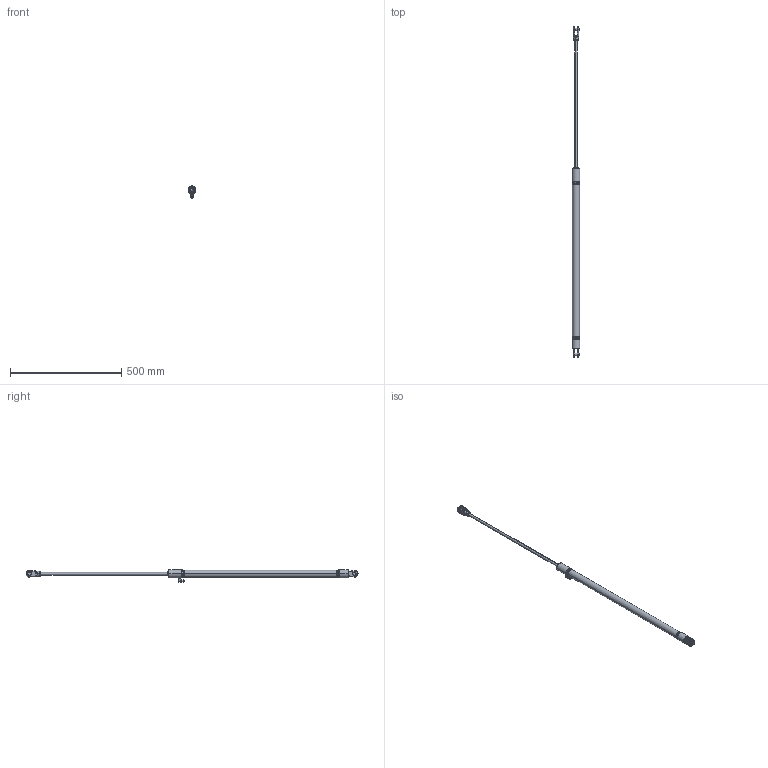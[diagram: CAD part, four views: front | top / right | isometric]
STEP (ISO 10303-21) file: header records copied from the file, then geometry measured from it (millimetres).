
FILE_DESCRIPTION (( 'STEP AP203' ), '1' );
FILE_NAME ('CL_025_S_0570.STEP', '2017-12-20T10:36:50', ( '' ), ( '' ), 'SwSTEP 2.0', 'SolidWorks 2015', '' );
FILE_SCHEMA (( 'CONFIG_CONTROL_DESIGN' ));
Length unit declared in the file: millimetre
Products named in the file (1): CL_025_S_0570
Bounding box: 36 x 1494.8 x 56.06 mm (x, y, z)
Volume: 783196.2 mm3; surface area: 122035 mm2
Topology: 1 solids, 1 shells, 242 faces, 601 edges, 376 vertices
Faces by surface type: cylinder 98, plane 85, cone 32, torus 27
Entity records: 7909 total; most frequent: CARTESIAN_POINT 2025, DIRECTION 1270, ORIENTED_EDGE 1202, EDGE_CURVE 601, AXIS2_PLACEMENT_3D 511, VERTEX_POINT 376, CIRCLE 268, EDGE_LOOP 263
